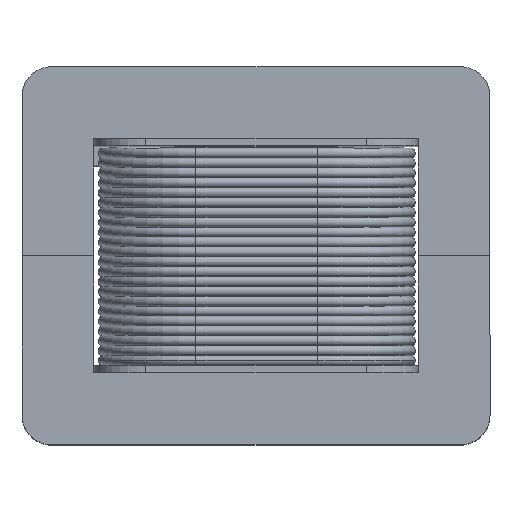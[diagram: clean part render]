
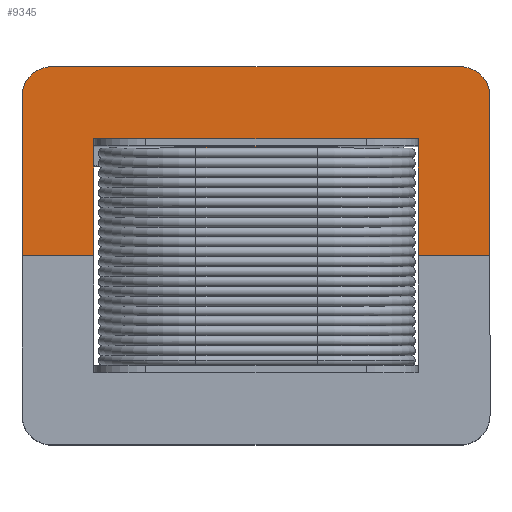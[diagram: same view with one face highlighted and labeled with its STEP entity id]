
A CAD part, top view. The second image highlights one B-rep face of the part: STEP entity #9345.
In plain terms, the highlighted planar face has unit normal (0, 0, 1).
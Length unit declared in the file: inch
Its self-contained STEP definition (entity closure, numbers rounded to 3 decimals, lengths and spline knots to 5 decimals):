
#39 = CARTESIAN_POINT ( 'NONE',  ( -2.98678, 1.64083, 1.40361 ) ) ;
#367 = AXIS2_PLACEMENT_3D ( 'NONE', #4012, #6437, #655 ) ;
#461 = LINE ( 'NONE', #9010, #8600 ) ;
#537 = DIRECTION ( 'NONE',  ( 0., 1., 0. ) ) ;
#655 = DIRECTION ( 'NONE',  ( -1., 0., 0. ) ) ;
#658 = ORIENTED_EDGE ( 'NONE', *, *, #12599, .T. ) ;
#751 = CARTESIAN_POINT ( 'NONE',  ( -2.98678, 1.64083, 1.40361 ) ) ;
#881 = CARTESIAN_POINT ( 'NONE',  ( -1.61178, 1.64083, 1.40361 ) ) ;
#1116 = VERTEX_POINT ( 'NONE', #10981 ) ;
#1125 = CARTESIAN_POINT ( 'NONE',  ( -0.33428, 3.45883, 1.40361 ) ) ;
#1160 = VERTEX_POINT ( 'NONE', #5263 ) ;
#1425 = EDGE_CURVE ( 'NONE', #1116, #9408, #461, .T. ) ;
#1482 = VERTEX_POINT ( 'NONE', #4579 ) ;
#1790 = ORIENTED_EDGE ( 'NONE', *, *, #13549, .T. ) ;
#2183 = VECTOR ( 'NONE', #12551, 39.37008 ) ;
#2184 = ORIENTED_EDGE ( 'NONE', *, *, #1425, .T. ) ;
#2412 = ORIENTED_EDGE ( 'NONE', *, *, #5220, .T. ) ;
#2433 = CARTESIAN_POINT ( 'NONE',  ( -4.26428, 3.17383, 1.40361 ) ) ;
#2444 = ORIENTED_EDGE ( 'NONE', *, *, #10444, .T. ) ;
#2474 = ORIENTED_EDGE ( 'NONE', *, *, #4470, .T. ) ;
#2487 = DIRECTION ( 'NONE',  ( -1., 0., 0. ) ) ;
#3159 = VERTEX_POINT ( 'NONE', #7271 ) ;
#3226 = CARTESIAN_POINT ( 'NONE',  ( -0.33428, 3.45883, 1.40361 ) ) ;
#3417 = VERTEX_POINT ( 'NONE', #13677 ) ;
#3550 = CARTESIAN_POINT ( 'NONE',  ( -0.04928, 1.64083, 1.40361 ) ) ;
#3553 = DIRECTION ( 'NONE',  ( 0., 1., 0. ) ) ;
#3562 = CARTESIAN_POINT ( 'NONE',  ( -4.54928, 3.17383, 1.40361 ) ) ;
#3575 = DIRECTION ( 'NONE',  ( 1., 0., 0. ) ) ;
#3630 = VERTEX_POINT ( 'NONE', #3562 ) ;
#3856 = ORIENTED_EDGE ( 'NONE', *, *, #15022, .T. ) ;
#3866 = CARTESIAN_POINT ( 'NONE',  ( -1.61178, 1.64083, 1.40361 ) ) ;
#3898 = VERTEX_POINT ( 'NONE', #751 ) ;
#3989 = AXIS2_PLACEMENT_3D ( 'NONE', #11495, #11452, #3575 ) ;
#4012 = CARTESIAN_POINT ( 'NONE',  ( -4.26428, 3.17383, 1.40361 ) ) ;
#4029 = VECTOR ( 'NONE', #13300, 39.37008 ) ;
#4421 = VECTOR ( 'NONE', #4720, 39.37008 ) ;
#4469 = FACE_OUTER_BOUND ( 'NONE', #12798, .T. ) ;
#4470 = EDGE_CURVE ( 'NONE', #8019, #1482, #5207, .T. ) ;
#4510 = VECTOR ( 'NONE', #7858, 39.37008 ) ;
#4579 = CARTESIAN_POINT ( 'NONE',  ( -4.26428, 3.45883, 1.40361 ) ) ;
#4714 = DIRECTION ( 'NONE',  ( 1., 0., 0. ) ) ;
#4720 = DIRECTION ( 'NONE',  ( 0., -1., 0. ) ) ;
#4925 = LINE ( 'NONE', #7331, #5661 ) ;
#5112 = LINE ( 'NONE', #39, #4421 ) ;
#5207 = LINE ( 'NONE', #3226, #4510 ) ;
#5220 = EDGE_CURVE ( 'NONE', #11172, #1116, #7150, .T. ) ;
#5263 = CARTESIAN_POINT ( 'NONE',  ( -0.73928, 2.76583, 1.40361 ) ) ;
#5324 = EDGE_CURVE ( 'NONE', #12072, #1160, #10394, .T. ) ;
#5447 = LINE ( 'NONE', #14235, #15049 ) ;
#5661 = VECTOR ( 'NONE', #537, 39.37008 ) ;
#6013 = CIRCLE ( 'NONE', #367, 0.285 ) ;
#6053 = CARTESIAN_POINT ( 'NONE',  ( -0.04928, 3.17383, 1.40361 ) ) ;
#6252 = LINE ( 'NONE', #7253, #9327 ) ;
#6339 = CIRCLE ( 'NONE', #3989, 0.285 ) ;
#6437 = DIRECTION ( 'NONE',  ( 0., 0., 1. ) ) ;
#6504 = ORIENTED_EDGE ( 'NONE', *, *, #9495, .T. ) ;
#6650 = CARTESIAN_POINT ( 'NONE',  ( -3.85928, 1.64083, 1.40361 ) ) ;
#6723 = DIRECTION ( 'NONE',  ( 1., 0., 0. ) ) ;
#6957 = ORIENTED_EDGE ( 'NONE', *, *, #7154, .T. ) ;
#7097 = LINE ( 'NONE', #11876, #4029 ) ;
#7150 = LINE ( 'NONE', #3550, #13836 ) ;
#7154 = EDGE_CURVE ( 'NONE', #3417, #3898, #5112, .T. ) ;
#7253 = CARTESIAN_POINT ( 'NONE',  ( -2.98678, 2.76583, 1.40361 ) ) ;
#7271 = CARTESIAN_POINT ( 'NONE',  ( -4.54928, 1.64083, 1.40361 ) ) ;
#7331 = CARTESIAN_POINT ( 'NONE',  ( -3.85928, 1.64083, 1.40361 ) ) ;
#7541 = EDGE_CURVE ( 'NONE', #3630, #3159, #9070, .T. ) ;
#7858 = DIRECTION ( 'NONE',  ( -1., 0., 0. ) ) ;
#8019 = VERTEX_POINT ( 'NONE', #1125 ) ;
#8352 = CARTESIAN_POINT ( 'NONE',  ( -1.61178, 2.76583, 1.40361 ) ) ;
#8394 = VECTOR ( 'NONE', #10903, 39.37008 ) ;
#8462 = EDGE_CURVE ( 'NONE', #3159, #9280, #9548, .T. ) ;
#8600 = VECTOR ( 'NONE', #3553, 39.37008 ) ;
#8763 = ORIENTED_EDGE ( 'NONE', *, *, #13342, .T. ) ;
#8992 = VECTOR ( 'NONE', #10038, 39.37008 ) ;
#9010 = CARTESIAN_POINT ( 'NONE',  ( -0.04928, 3.17383, 1.40361 ) ) ;
#9064 = ORIENTED_EDGE ( 'NONE', *, *, #12674, .T. ) ;
#9070 = LINE ( 'NONE', #12650, #2183 ) ;
#9192 = VERTEX_POINT ( 'NONE', #14901 ) ;
#9240 = LINE ( 'NONE', #881, #10318 ) ;
#9280 = VERTEX_POINT ( 'NONE', #11730 ) ;
#9327 = VECTOR ( 'NONE', #11975, 39.37008 ) ;
#9345 = ADVANCED_FACE ( 'NONE', ( #4469 ), #14013, .T. ) ;
#9408 = VERTEX_POINT ( 'NONE', #6053 ) ;
#9495 = EDGE_CURVE ( 'NONE', #9192, #3417, #6252, .T. ) ;
#9548 = LINE ( 'NONE', #6650, #8992 ) ;
#10038 = DIRECTION ( 'NONE',  ( 1., 0., 0. ) ) ;
#10278 = CARTESIAN_POINT ( 'NONE',  ( -0.73928, 1.64083, 1.40361 ) ) ;
#10318 = VECTOR ( 'NONE', #6723, 39.37008 ) ;
#10394 = LINE ( 'NONE', #14359, #8394 ) ;
#10444 = EDGE_CURVE ( 'NONE', #12594, #12072, #5447, .T. ) ;
#10531 = DIRECTION ( 'NONE',  ( 0., 0., 1. ) ) ;
#10903 = DIRECTION ( 'NONE',  ( 1., 0., 0. ) ) ;
#10981 = CARTESIAN_POINT ( 'NONE',  ( -0.04928, 1.64083, 1.40361 ) ) ;
#10990 = ORIENTED_EDGE ( 'NONE', *, *, #5324, .T. ) ;
#11172 = VERTEX_POINT ( 'NONE', #10278 ) ;
#11263 = ORIENTED_EDGE ( 'NONE', *, *, #8462, .T. ) ;
#11452 = DIRECTION ( 'NONE',  ( 0., 0., 1. ) ) ;
#11495 = CARTESIAN_POINT ( 'NONE',  ( -0.33428, 3.17383, 1.40361 ) ) ;
#11730 = CARTESIAN_POINT ( 'NONE',  ( -3.85928, 1.64083, 1.40361 ) ) ;
#11876 = CARTESIAN_POINT ( 'NONE',  ( -0.73928, 1.64083, 1.40361 ) ) ;
#11975 = DIRECTION ( 'NONE',  ( 1., 0., 0. ) ) ;
#12072 = VERTEX_POINT ( 'NONE', #8352 ) ;
#12551 = DIRECTION ( 'NONE',  ( 0., -1., 0. ) ) ;
#12594 = VERTEX_POINT ( 'NONE', #3866 ) ;
#12599 = EDGE_CURVE ( 'NONE', #1160, #11172, #7097, .T. ) ;
#12650 = CARTESIAN_POINT ( 'NONE',  ( -4.54928, 3.17383, 1.40361 ) ) ;
#12674 = EDGE_CURVE ( 'NONE', #1482, #3630, #6013, .T. ) ;
#12798 = EDGE_LOOP ( 'NONE', ( #11263, #3856, #6504, #6957, #8763, #2444, #10990, #658, #2412, #2184, #1790, #2474, #9064, #13213 ) ) ;
#13107 = AXIS2_PLACEMENT_3D ( 'NONE', #2433, #10531, #2487 ) ;
#13213 = ORIENTED_EDGE ( 'NONE', *, *, #7541, .T. ) ;
#13300 = DIRECTION ( 'NONE',  ( 0., -1., 0. ) ) ;
#13342 = EDGE_CURVE ( 'NONE', #3898, #12594, #9240, .T. ) ;
#13549 = EDGE_CURVE ( 'NONE', #9408, #8019, #6339, .T. ) ;
#13677 = CARTESIAN_POINT ( 'NONE',  ( -2.98678, 2.76583, 1.40361 ) ) ;
#13836 = VECTOR ( 'NONE', #4714, 39.37008 ) ;
#14013 = PLANE ( 'NONE',  #13107 ) ;
#14235 = CARTESIAN_POINT ( 'NONE',  ( -1.61178, 1.64083, 1.40361 ) ) ;
#14359 = CARTESIAN_POINT ( 'NONE',  ( -0.73928, 2.76583, 1.40361 ) ) ;
#14444 = DIRECTION ( 'NONE',  ( 0., 1., 0. ) ) ;
#14901 = CARTESIAN_POINT ( 'NONE',  ( -3.85928, 2.76583, 1.40361 ) ) ;
#15022 = EDGE_CURVE ( 'NONE', #9280, #9192, #4925, .T. ) ;
#15049 = VECTOR ( 'NONE', #14444, 39.37008 ) ;
